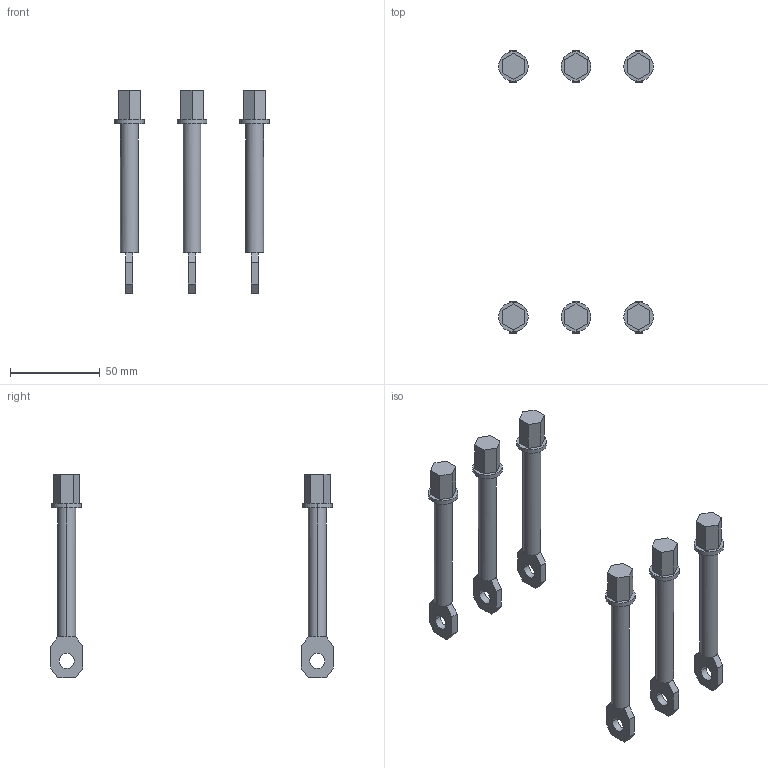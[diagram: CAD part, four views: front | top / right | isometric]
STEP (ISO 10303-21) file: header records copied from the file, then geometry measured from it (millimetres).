
FILE_DESCRIPTION (( 'STEP AP214' ), '1' );
FILE_NAME ('ÊÇÏ OptiMat D100, D160, D250 6 øò äëèííûå âåðòèêàëüíûå.STEP', '2023-04-28T07:32:22', ( '' ), ( '' ), 'SwSTEP 2.0', 'SolidWorks 2018', '' );
FILE_SCHEMA (( 'AUTOMOTIVE_DESIGN' ));
Length unit declared in the file: millimetre
Products named in the file (1): ÊÇÏ OptiMat D100, D160, D250 6 øò äëèííûå âåðòèêàëüíûå
Bounding box: 86.5 x 158 x 113.7 mm (x, y, z)
Volume: 58067.6 mm3; surface area: 26805.1 mm2
Topology: 6 solids, 6 shells, 180 faces, 432 edges, 276 vertices
Faces by surface type: plane 144, cylinder 36
Entity records: 7259 total; most frequent: DIRECTION 902, CARTESIAN_POINT 889, ORIENTED_EDGE 864, EDGE_CURVE 432, VECTOR 324, LINE 324, AXIS2_PLACEMENT_3D 289, VERTEX_POINT 276
